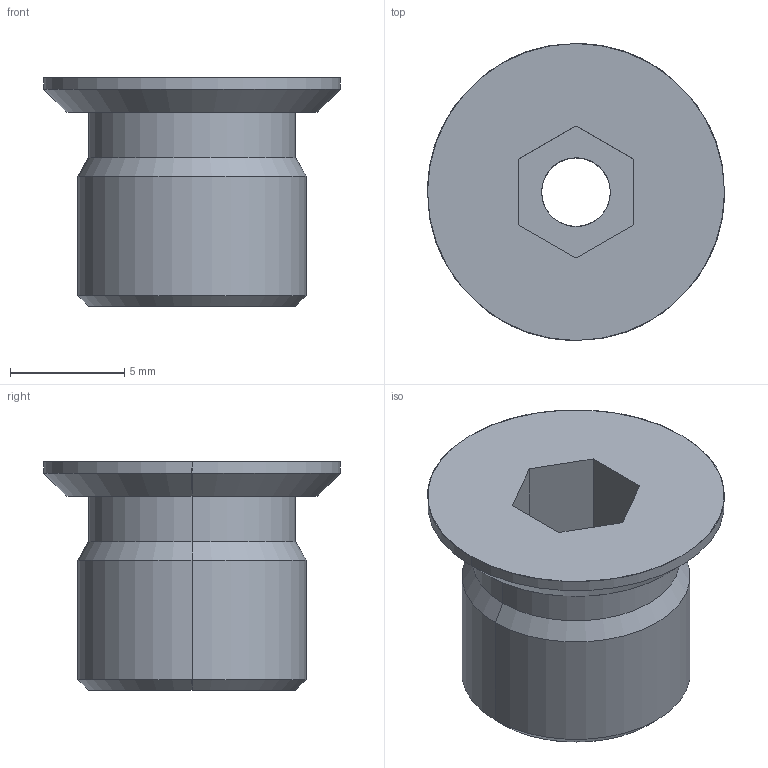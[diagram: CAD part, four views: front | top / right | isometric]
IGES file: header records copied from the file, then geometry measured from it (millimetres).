
Global section: file name: E:\UnigraphicsGraphicData\MISUMI_PRESS-PARTS\IGES\3d_mswzsh10-10_00499_r00.igs; native system: NX V5.0; preprocessor: UGS NX IGES V5.0; author: MISUMI; date: 20110105.161531; units: millimetre
Bounding box: 13 x 13 x 10 mm (x, y, z)
Surface area: 682.7 mm2 (no closed solid volume)
Topology: 0 solids, 0 shells, 24 faces, 140 edges, 140 vertices
Faces by surface type: bspline 24
